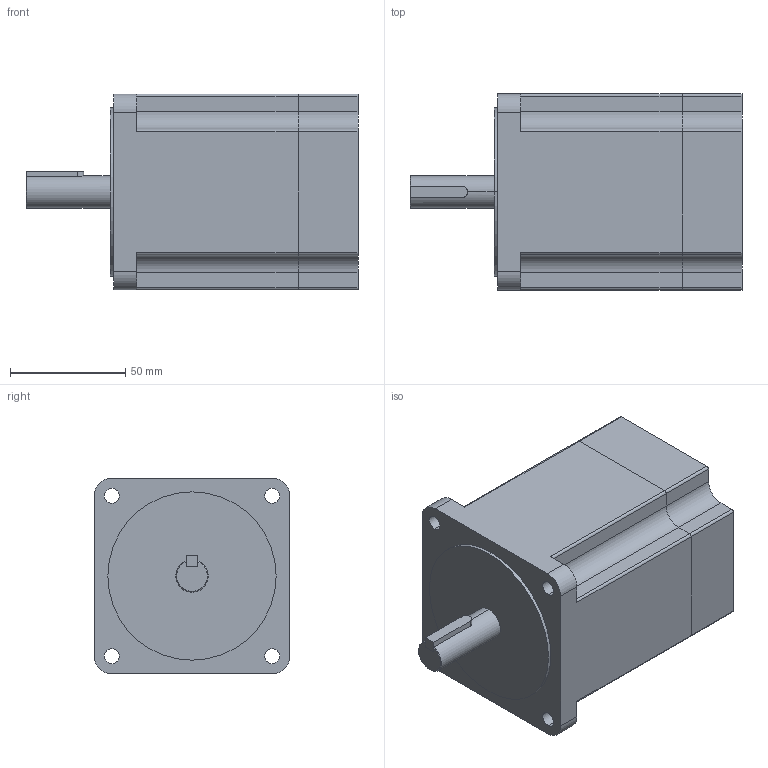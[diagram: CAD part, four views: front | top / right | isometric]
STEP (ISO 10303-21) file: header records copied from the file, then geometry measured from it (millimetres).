
FILE_DESCRIPTION (( 'STEP AP203' ), '1' );
FILE_NAME ('TM3401A60A-P1000.STEP', '2019-02-16T03:34:50', ( 'User' ), ( 'www.dadighost.com' ), 'SwSTEP 2.0', 'SolidWorks 2014', '' );
FILE_SCHEMA (( 'CONFIG_CONTROL_DESIGN' ));
Length unit declared in the file: millimetre
Products named in the file (1): TM3401A60A-P1000
Bounding box: 144 x 85 x 85 mm (x, y, z)
Volume: 691090.2 mm3; surface area: 64489.5 mm2
Topology: 3 solids, 3 shells, 87 faces, 235 edges, 156 vertices
Faces by surface type: cylinder 43, plane 42, cone 2
Entity records: 2878 total; most frequent: CARTESIAN_POINT 517, DIRECTION 493, ORIENTED_EDGE 470, EDGE_CURVE 235, AXIS2_PLACEMENT_3D 174, VERTEX_POINT 156, VECTOR 145, LINE 145
